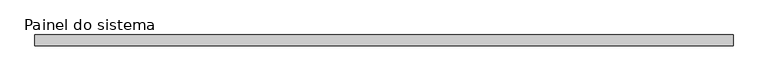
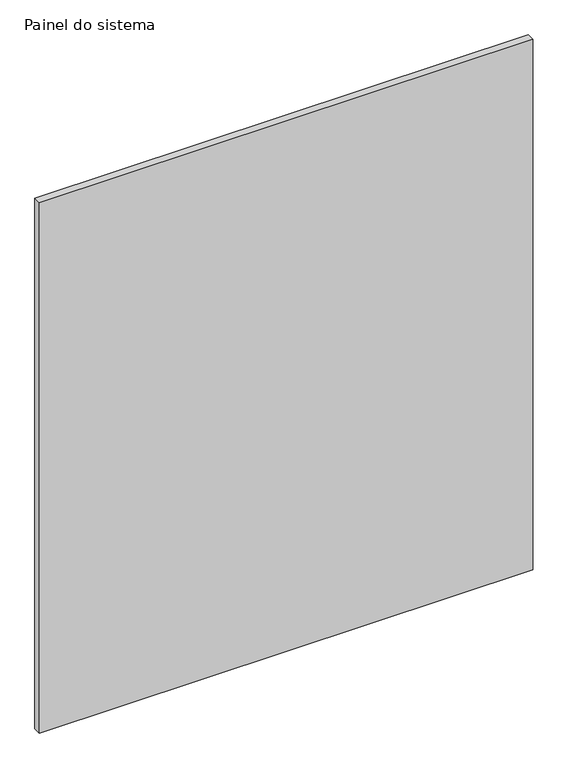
"""IFC4 building model written with IfcOpenShell, lengths in millimetres: plate geometry, Painel do sistema : ALAMBRADO."""

from ifc_helpers import new_model, si_unit, origin, origin_with_axes, place, context, project, spatial, polyline, outline, extrude, source, transform, mapped, element, save


def painel_do_sistema_0934ba3d(model_context):
    return source(origin(), model_context, "Body", "SweptSolid", [
        extrude(outline(polyline([(791.6666666, 24.5), (-791.6666666, 24.5), (-791.6666666, 49.5), (791.6666666, 49.5), (791.6666666, 24.5)])), origin_with_axes(), (0.0, 0.0, 1.0), 1800.0),
    ])


if __name__ == "__main__":
    model = new_model("IFC4")
    model_context = context("Model", 3, world=origin())
    ifc_project = project(units=[si_unit("LENGTHUNIT", "METRE", prefix="MILLI")], contexts=[model_context])
    site = spatial("IfcSite", under=ifc_project)
    building = spatial("IfcBuilding", under=site)
    placement = place(None, origin())
    painel_do_sistema_shape = painel_do_sistema_0934ba3d(model_context)
    element("IfcPlate", 1, ObjectType="Painel do sistema : ALAMBRADO", at=placement, inside=building, context=model_context, shape_type="MappedRepresentation", body=[
        mapped(painel_do_sistema_shape, transform((0.0, 0.0, 0.0), x_axis=(1.0, 0.0, 0.0), y_axis=(0.0, 1.0, 0.0), z_axis=(0.0, 0.0, 1.0))),
    ])
    save(model, "model.ifc")
